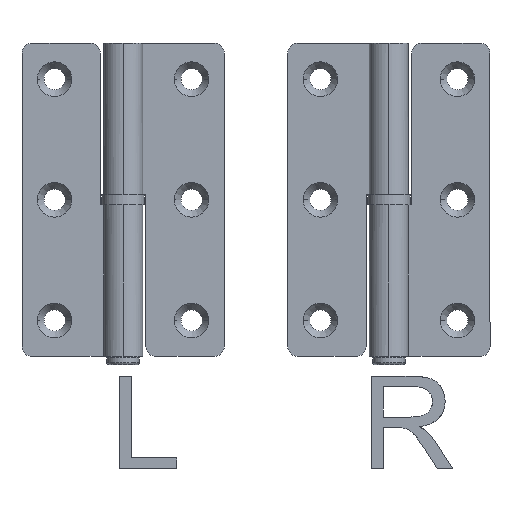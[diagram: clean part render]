
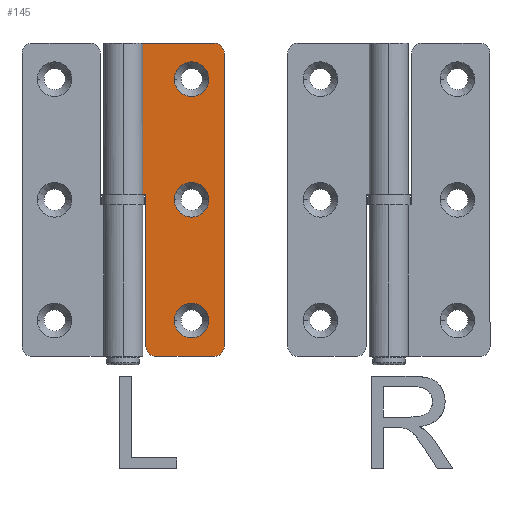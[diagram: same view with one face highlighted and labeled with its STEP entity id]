
A CAD part, top view. The second image highlights one B-rep face of the part: STEP entity #145.
In plain terms, the highlighted planar face has unit normal (0, 0, 1).
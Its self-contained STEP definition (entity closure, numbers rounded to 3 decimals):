
#50=FACE_BOUND('',#447,.T.);
#51=FACE_BOUND('',#448,.T.);
#52=FACE_BOUND('',#449,.T.);
#145=ADVANCED_FACE('',(#289,#50,#51,#52),#2414,.T.);
#289=FACE_OUTER_BOUND('',#446,.T.);
#446=EDGE_LOOP('',(#898,#899,#900,#901,#902,#903,#904,#905,#906));
#447=EDGE_LOOP('',(#907,#908));
#448=EDGE_LOOP('',(#909,#910));
#449=EDGE_LOOP('',(#911,#912));
#898=ORIENTED_EDGE('',*,*,#1459,.T.);
#899=ORIENTED_EDGE('',*,*,#1437,.T.);
#900=ORIENTED_EDGE('',*,*,#1455,.T.);
#901=ORIENTED_EDGE('',*,*,#1435,.F.);
#902=ORIENTED_EDGE('',*,*,#1458,.T.);
#903=ORIENTED_EDGE('',*,*,#1438,.T.);
#904=ORIENTED_EDGE('',*,*,#1439,.T.);
#905=ORIENTED_EDGE('',*,*,#1440,.T.);
#906=ORIENTED_EDGE('',*,*,#1441,.T.);
#907=ORIENTED_EDGE('',*,*,#1464,.F.);
#908=ORIENTED_EDGE('',*,*,#1414,.F.);
#909=ORIENTED_EDGE('',*,*,#1417,.F.);
#910=ORIENTED_EDGE('',*,*,#1465,.F.);
#911=ORIENTED_EDGE('',*,*,#1420,.F.);
#912=ORIENTED_EDGE('',*,*,#1467,.F.);
#1414=EDGE_CURVE('',#2217,#2218,#1716,.T.);
#1417=EDGE_CURVE('',#2220,#2221,#1717,.T.);
#1420=EDGE_CURVE('',#2223,#2224,#1719,.T.);
#1435=EDGE_CURVE('',#2240,#2241,#2048,.T.);
#1437=EDGE_CURVE('',#2243,#2244,#2050,.T.);
#1438=EDGE_CURVE('',#2245,#2246,#2051,.T.);
#1439=EDGE_CURVE('',#2246,#2247,#2052,.T.);
#1440=EDGE_CURVE('',#2247,#2248,#2053,.T.);
#1441=EDGE_CURVE('',#2248,#2242,#2054,.T.);
#1455=EDGE_CURVE('',#2244,#2241,#1727,.T.);
#1458=EDGE_CURVE('',#2240,#2245,#1730,.T.);
#1459=EDGE_CURVE('',#2242,#2243,#1731,.T.);
#1464=EDGE_CURVE('',#2218,#2217,#1734,.T.);
#1465=EDGE_CURVE('',#2221,#2220,#1735,.T.);
#1467=EDGE_CURVE('',#2224,#2223,#1737,.T.);
#1716=TRIMMED_CURVE($,#1860,(#4335),(#4336),.T.,.CARTESIAN.);
#1717=TRIMMED_CURVE($,#1861,(#4346),(#4347),.T.,.CARTESIAN.);
#1719=TRIMMED_CURVE($,#1863,(#4356),(#4357),.T.,.CARTESIAN.);
#1727=TRIMMED_CURVE($,#1871,(#4450),(#4451),.T.,.CARTESIAN.);
#1730=TRIMMED_CURVE($,#1874,(#4459),(#4460),.T.,.CARTESIAN.);
#1731=TRIMMED_CURVE($,#1875,(#4462),(#4463),.T.,.CARTESIAN.);
#1734=TRIMMED_CURVE($,#1878,(#4475),(#4476),.T.,.CARTESIAN.);
#1735=TRIMMED_CURVE($,#1879,(#4478),(#4479),.T.,.CARTESIAN.);
#1737=TRIMMED_CURVE($,#1881,(#4484),(#4485),.T.,.CARTESIAN.);
#1860=CIRCLE('',#2694,5.3);
#1861=CIRCLE('',#2695,5.3);
#1863=CIRCLE('',#2697,5.3);
#1871=CIRCLE('',#2705,3.);
#1874=CIRCLE('',#2708,3.);
#1875=CIRCLE('',#2709,3.);
#1878=CIRCLE('',#2712,5.3);
#1879=CIRCLE('',#2713,5.3);
#1881=CIRCLE('',#2715,5.3);
#2048=B_SPLINE_CURVE_WITH_KNOTS('',1,(#4393,#4394),.UNSPECIFIED.,.F.,.F.,
(2,2),(0.,90.),.UNSPECIFIED.);
#2050=B_SPLINE_CURVE_WITH_KNOTS('',1,(#4397,#4398),.UNSPECIFIED.,.F.,.F.,
(2,2),(0.,18.),.UNSPECIFIED.);
#2051=B_SPLINE_CURVE_WITH_KNOTS('',1,(#4399,#4400),.UNSPECIFIED.,.F.,.F.,
(2,2),(0.,28.),.UNSPECIFIED.);
#2052=B_SPLINE_CURVE_WITH_KNOTS('',1,(#4401,#4402),.UNSPECIFIED.,.F.,.F.,
(2,2),(0.,46.5),.UNSPECIFIED.);
#2053=B_SPLINE_CURVE_WITH_KNOTS('',1,(#4403,#4404),.UNSPECIFIED.,.F.,.F.,
(2,2),(0.,7.),.UNSPECIFIED.);
#2054=B_SPLINE_CURVE_WITH_KNOTS('',1,(#4405,#4406),.UNSPECIFIED.,.F.,.F.,
(2,2),(0.,46.5),.UNSPECIFIED.);
#2217=VERTEX_POINT('',#4291);
#2218=VERTEX_POINT('',#4292);
#2220=VERTEX_POINT('',#4294);
#2221=VERTEX_POINT('',#4295);
#2223=VERTEX_POINT('',#4297);
#2224=VERTEX_POINT('',#4298);
#2240=VERTEX_POINT('',#4314);
#2241=VERTEX_POINT('',#4315);
#2242=VERTEX_POINT('',#4316);
#2243=VERTEX_POINT('',#4317);
#2244=VERTEX_POINT('',#4318);
#2245=VERTEX_POINT('',#4319);
#2246=VERTEX_POINT('',#4320);
#2247=VERTEX_POINT('',#4321);
#2248=VERTEX_POINT('',#4322);
#2414=PLANE('',#2682);
#2682=AXIS2_PLACEMENT_3D('',#4218,#2992,$);
#2694=AXIS2_PLACEMENT_3D($,#4334,#3005,#3006);
#2695=AXIS2_PLACEMENT_3D($,#4345,#3007,#3008);
#2697=AXIS2_PLACEMENT_3D($,#4355,#3011,#3012);
#2705=AXIS2_PLACEMENT_3D($,#4449,#3027,#3028);
#2708=AXIS2_PLACEMENT_3D($,#4458,#3033,#3034);
#2709=AXIS2_PLACEMENT_3D($,#4461,#3035,#3036);
#2712=AXIS2_PLACEMENT_3D($,#4474,#3041,#3042);
#2713=AXIS2_PLACEMENT_3D($,#4477,#3043,#3044);
#2715=AXIS2_PLACEMENT_3D($,#4483,#3047,#3048);
#2992=DIRECTION('',(0.,0.,1.));
#3005=DIRECTION('',(0.,0.,1.));
#3006=DIRECTION('',(-1.,0.,0.));
#3007=DIRECTION('',(0.,0.,1.));
#3008=DIRECTION('',(1.,0.,0.));
#3011=DIRECTION('',(0.,0.,1.));
#3012=DIRECTION('',(1.,0.,0.));
#3027=DIRECTION('',(0.,0.,1.));
#3028=DIRECTION('',(0.,-1.,0.));
#3033=DIRECTION('',(0.,0.,1.));
#3034=DIRECTION('',(1.,0.,0.));
#3035=DIRECTION('',(0.,0.,1.));
#3036=DIRECTION('',(-1.,0.,0.));
#3041=DIRECTION('',(0.,0.,1.));
#3042=DIRECTION('',(1.,0.,0.));
#3043=DIRECTION('',(0.,0.,1.));
#3044=DIRECTION('',(-1.,0.,0.));
#3047=DIRECTION('',(0.,0.,1.));
#3048=DIRECTION('',(-1.,0.,0.));
#4218=CARTESIAN_POINT('',(-68.456,-9.612,9.632));
#4291=CARTESIAN_POINT('',(-49.644,85.,9.632));
#4292=CARTESIAN_POINT('',(-39.044,85.,9.632));
#4294=CARTESIAN_POINT('',(-39.044,48.,9.632));
#4295=CARTESIAN_POINT('',(-49.644,48.,9.632));
#4297=CARTESIAN_POINT('',(-39.044,11.,9.632));
#4298=CARTESIAN_POINT('',(-49.644,11.,9.632));
#4314=CARTESIAN_POINT('',(-34.344,93.,9.632));
#4315=CARTESIAN_POINT('',(-34.344,3.,9.632));
#4316=CARTESIAN_POINT('',(-58.344,3.,9.632));
#4317=CARTESIAN_POINT('',(-55.344,0.,9.632));
#4318=CARTESIAN_POINT('',(-37.344,0.,9.632));
#4319=CARTESIAN_POINT('',(-37.344,96.,9.632));
#4320=CARTESIAN_POINT('',(-65.344,96.,9.632));
#4321=CARTESIAN_POINT('',(-65.344,49.5,9.632));
#4322=CARTESIAN_POINT('',(-58.344,49.5,9.632));
#4334=CARTESIAN_POINT('',(-44.344,85.,9.632));
#4335=CARTESIAN_POINT('',(-49.644,85.,9.632));
#4336=CARTESIAN_POINT('',(-39.044,85.,9.632));
#4345=CARTESIAN_POINT('',(-44.344,48.,9.632));
#4346=CARTESIAN_POINT('',(-39.044,48.,9.632));
#4347=CARTESIAN_POINT('',(-49.644,48.,9.632));
#4355=CARTESIAN_POINT('',(-44.344,11.,9.632));
#4356=CARTESIAN_POINT('',(-39.044,11.,9.632));
#4357=CARTESIAN_POINT('',(-49.644,11.,9.632));
#4393=CARTESIAN_POINT('',(-34.344,93.,9.632));
#4394=CARTESIAN_POINT('',(-34.344,3.,9.632));
#4397=CARTESIAN_POINT('',(-55.344,0.,9.632));
#4398=CARTESIAN_POINT('',(-37.344,0.,9.632));
#4399=CARTESIAN_POINT('',(-37.344,96.,9.632));
#4400=CARTESIAN_POINT('',(-65.344,96.,9.632));
#4401=CARTESIAN_POINT('',(-65.344,96.,9.632));
#4402=CARTESIAN_POINT('',(-65.344,49.5,9.632));
#4403=CARTESIAN_POINT('',(-65.344,49.5,9.632));
#4404=CARTESIAN_POINT('',(-58.344,49.5,9.632));
#4405=CARTESIAN_POINT('',(-58.344,49.5,9.632));
#4406=CARTESIAN_POINT('',(-58.344,3.,9.632));
#4449=CARTESIAN_POINT('',(-37.344,3.,9.632));
#4450=CARTESIAN_POINT('',(-37.344,0.,9.632));
#4451=CARTESIAN_POINT('',(-34.344,3.,9.632));
#4458=CARTESIAN_POINT('',(-37.344,93.,9.632));
#4459=CARTESIAN_POINT('',(-34.344,93.,9.632));
#4460=CARTESIAN_POINT('',(-37.344,96.,9.632));
#4461=CARTESIAN_POINT('',(-55.344,3.,9.632));
#4462=CARTESIAN_POINT('',(-58.344,3.,9.632));
#4463=CARTESIAN_POINT('',(-55.344,0.,9.632));
#4474=CARTESIAN_POINT('',(-44.344,85.,9.632));
#4475=CARTESIAN_POINT('',(-39.044,85.,9.632));
#4476=CARTESIAN_POINT('',(-49.644,85.,9.632));
#4477=CARTESIAN_POINT('',(-44.344,48.,9.632));
#4478=CARTESIAN_POINT('',(-49.644,48.,9.632));
#4479=CARTESIAN_POINT('',(-39.044,48.,9.632));
#4483=CARTESIAN_POINT('',(-44.344,11.,9.632));
#4484=CARTESIAN_POINT('',(-49.644,11.,9.632));
#4485=CARTESIAN_POINT('',(-39.044,11.,9.632));
